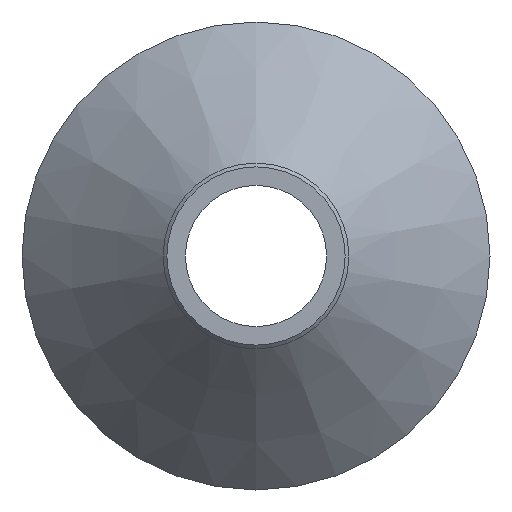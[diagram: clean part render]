
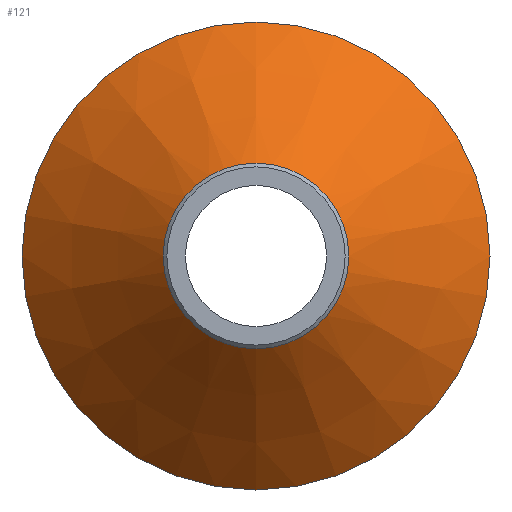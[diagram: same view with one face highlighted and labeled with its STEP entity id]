
A CAD part, left-side view. The second image highlights one B-rep face of the part: STEP entity #121.
In plain terms, the highlighted conical face has half-angle 45 degrees and reference radius 31.5 mm.
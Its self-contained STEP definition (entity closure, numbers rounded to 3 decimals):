
#22=CONICAL_SURFACE('',#146,31.5,0.785);
#28=ORIENTED_EDGE('',*,*,#48,.F.);
#29=ORIENTED_EDGE('',*,*,#47,.T.);
#47=EDGE_CURVE('',#57,#57,#67,.T.);
#48=EDGE_CURVE('',#58,#58,#68,.T.);
#57=VERTEX_POINT('',#210);
#58=VERTEX_POINT('',#213);
#67=CIRCLE('',#145,31.5);
#68=CIRCLE('',#147,12.5);
#78=EDGE_LOOP('',(#28));
#79=EDGE_LOOP('',(#29));
#98=FACE_BOUND('',#78,.T.);
#99=FACE_BOUND('',#79,.T.);
#121=ADVANCED_FACE('',(#98,#99),#22,.T.);
#145=AXIS2_PLACEMENT_3D('',#209,#169,#170);
#146=AXIS2_PLACEMENT_3D('',#211,#171,#172);
#147=AXIS2_PLACEMENT_3D('',#212,#173,#174);
#169=DIRECTION('',(-1.,0.,0.));
#170=DIRECTION('',(0.,0.,1.));
#171=DIRECTION('',(1.,0.,0.));
#172=DIRECTION('',(0.,0.,-1.));
#173=DIRECTION('',(-1.,0.,0.));
#174=DIRECTION('',(0.,0.,1.));
#209=CARTESIAN_POINT('',(9.5,0.,0.));
#210=CARTESIAN_POINT('',(9.5,0.,31.5));
#211=CARTESIAN_POINT('',(9.5,0.,0.));
#212=CARTESIAN_POINT('',(-9.5,0.,0.));
#213=CARTESIAN_POINT('',(-9.5,0.,12.5));
